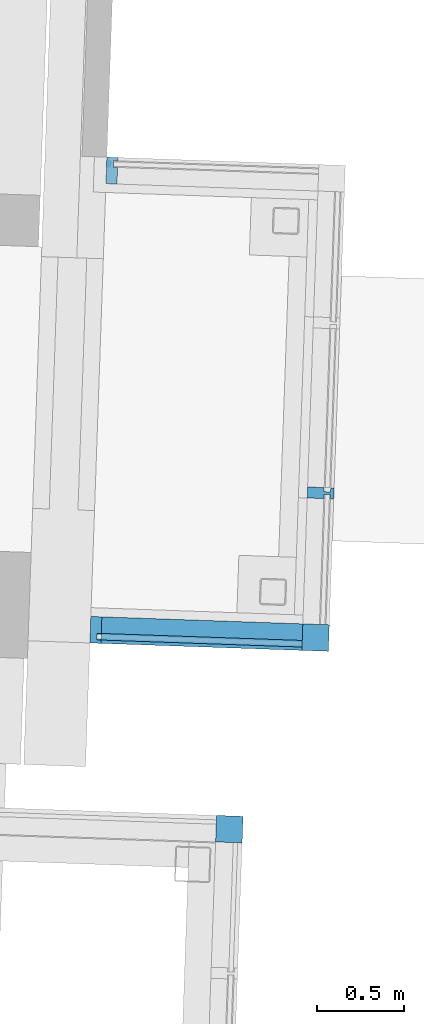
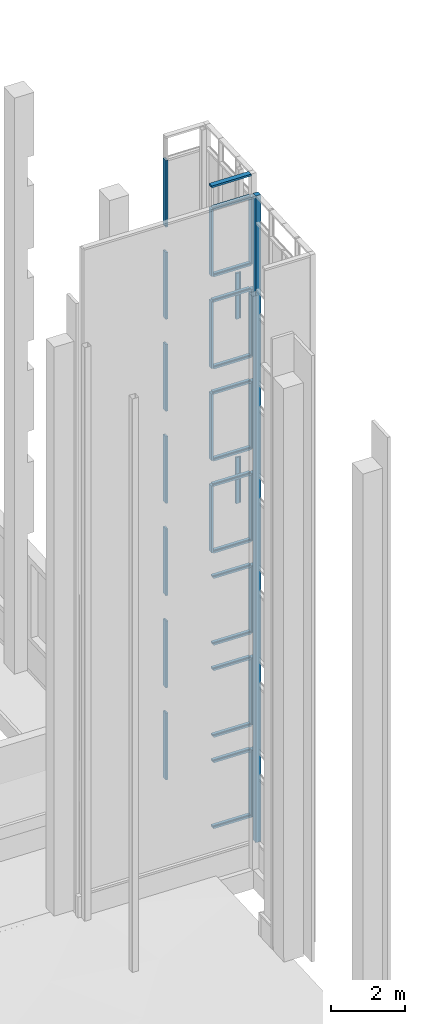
# One storey, part 10 of 44: 36 members, 4 elements without a shape of their own.
"""IFC2X3 building model written with IfcOpenShell, lengths in feet."""

from ifc_helpers import new_model, entity, si_unit, converted_unit, derived_unit, direction, frame, origin, origin_2d_with_axis, place, context, subcontext, project, spatial, polyline, rectangle, outline, extrude, material, type_object, element, aggregate, save


model = new_model("IFC2X3")

# Units and contexts
model_context = context("Model", 3, precision=0.0001, world=origin(), true_north=direction((0.999390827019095, 0.0348994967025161)))
body_context = subcontext(model_context, "Body", "Model", "MODEL_VIEW")
ifc_project = project(units=[converted_unit("LENGTHUNIT", "FOOT", entity("IfcRatioMeasure", 0.3048), si_unit("LENGTHUNIT", "METRE"), dimensions=[1, 0, 0, 0, 0, 0, 0]), converted_unit("AREAUNIT", "SQUARE FOOT", entity("IfcRatioMeasure", 0.09290304), si_unit("AREAUNIT", "SQUARE_METRE"), dimensions=[2, 0, 0, 0, 0, 0, 0]), converted_unit("VOLUMEUNIT", "CUBIC FOOT", entity("IfcRatioMeasure", 0.028316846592), si_unit("VOLUMEUNIT", "CUBIC_METRE"), dimensions=[3, 0, 0, 0, 0, 0, 0]), converted_unit("PLANEANGLEUNIT", "DEGREE", entity("IfcRatioMeasure", 0.0174532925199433), si_unit("PLANEANGLEUNIT", "RADIAN"), dimensions=[0, 0, 0, 0, 0, 0, 0]), si_unit("MASSUNIT", "GRAM", prefix="KILO"), si_unit("TIMEUNIT", "SECOND"), si_unit("FREQUENCYUNIT", "HERTZ"), si_unit("THERMODYNAMICTEMPERATUREUNIT", "DEGREE_CELSIUS"), derived_unit("THERMALTRANSMITTANCEUNIT", [(si_unit("MASSUNIT", "GRAM", prefix="KILO"), 1), (si_unit("THERMODYNAMICTEMPERATUREUNIT", "KELVIN"), -1), (si_unit("TIMEUNIT", "SECOND"), -3)]), derived_unit("VOLUMETRICFLOWRATEUNIT", [(si_unit("LENGTHUNIT", "METRE"), 3), (si_unit("TIMEUNIT", "SECOND"), -1)]), si_unit("ELECTRICCURRENTUNIT", "AMPERE"), si_unit("ELECTRICVOLTAGEUNIT", "VOLT"), si_unit("POWERUNIT", "WATT"), si_unit("FORCEUNIT", "NEWTON"), si_unit("ILLUMINANCEUNIT", "LUX"), si_unit("LUMINOUSFLUXUNIT", "LUMEN"), si_unit("LUMINOUSINTENSITYUNIT", "CANDELA"), derived_unit("USERDEFINED", [(si_unit("MASSUNIT", "GRAM", prefix="KILO"), -1), (si_unit("LENGTHUNIT", "METRE"), -2), (si_unit("TIMEUNIT", "SECOND"), 3), (si_unit("LUMINOUSFLUXUNIT", "LUMEN"), 1)]), derived_unit("LINEARVELOCITYUNIT", [(si_unit("LENGTHUNIT", "METRE"), 1), (si_unit("TIMEUNIT", "SECOND"), -1)]), si_unit("PRESSUREUNIT", "PASCAL"), derived_unit("USERDEFINED", [(si_unit("LENGTHUNIT", "METRE"), -2), (si_unit("MASSUNIT", "GRAM", prefix="KILO"), 1), (si_unit("TIMEUNIT", "SECOND"), -2)])], contexts=[model_context])

# Site, building, storey
site_placement = place(None, frame((892.518771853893, 322.38689265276, 0.00393700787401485), z_axis=(0.0, 0.0, 1.0), x_axis=(0.0348994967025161, 0.999390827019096, 0.0)))
site = spatial("IfcSite", under=ifc_project, at=site_placement, Name="Default", CompositionType="ELEMENT")
building_placement = place(site_placement, origin())
building = spatial("IfcBuilding", under=site, at=building_placement, CompositionType="ELEMENT")
storey_placement = place(building_placement, frame((0.0, 0.0, 544.75)))
storey = spatial("IfcBuildingStorey", under=building, at=storey_placement, Name="Exist Garage - Ground Level", CompositionType="ELEMENT", Elevation=544.75)

# Curtain wall, member
curtain_wall_type = type_object("IfcCurtainWallType", Name="Curtain Wall:(Existing) Curtainwall - Blank", PredefinedType="NOTDEFINED")
curtain_wall_1_placement = place(storey_placement, frame((0.0, 0.0, -544.75)))
curtain_wall_1 = element("IfcCurtainWall", 1, at=curtain_wall_1_placement, inside=storey, type_object=curtain_wall_type, Name="Curtain Wall:(Existing) Curtainwall - Blank", ObjectType="Curtain Wall:(Existing) Curtainwall - Blank")
ifc_material = material(Name="Metal - Aluminum")
member_1_placement = place(curtain_wall_1_placement, frame((0.0, 0.0, 544.75)))
member_1 = element("IfcMember", 2, at=member_1_placement, material=ifc_material, Name="Curtain Wall:(Existing) Curtainwall - Blank", ObjectType="Curtain Wall:(Existing) Curtainwall - Blank", context=body_context, shape_type="SweptSolid", body=[
    extrude(rectangle(XDim=0.5, YDim=0.5, at=origin_2d_with_axis()), frame((101.843963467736, 232.513953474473, 2.25), z_axis=(0.0, 0.0, 1.0), x_axis=(-1.0, 0.0, 0.0)), (0.0, 0.0, 1.0), 70.2083333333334),
])
aggregate(curtain_wall_1, [member_1])

# Curtain wall, members
curtain_wall_2_placement = place(storey_placement, frame((0.0, 0.0, -544.75)))
curtain_wall_2 = element("IfcCurtainWall", 3, at=curtain_wall_2_placement, inside=storey, type_object=curtain_wall_type, Name="Curtain Wall:(Existing) Curtainwall - Blank", ObjectType="Curtain Wall:(Existing) Curtainwall - Blank")
member_2_placement = place(curtain_wall_2_placement, frame((0.0, 0.0, 544.75)))
member_2 = element("IfcMember", 4, at=member_2_placement, material=ifc_material, Name="Curtain Wall:(Existing) Curtainwall - Blank", ObjectType="Curtain Wall:(Existing) Curtainwall - Blank", context=body_context, shape_type="SweptSolid", body=[
    extrude(rectangle(XDim=0.5, YDim=0.5, at=origin_2d_with_axis()), frame((105.510626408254, 231.013953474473, 2.25), z_axis=(0.0, 0.0, 1.0), x_axis=(-1.0, 0.0, 0.0)), (0.0, 0.0, 1.0), 7.25),
])
member_3_placement = place(curtain_wall_2_placement, frame((0.0, 0.0, 544.75)))
member_3 = element("IfcMember", 5, at=member_3_placement, material=ifc_material, Name="Curtain Wall:(Existing) Curtainwall - Blank", ObjectType="Curtain Wall:(Existing) Curtainwall - Blank", context=body_context, shape_type="SweptSolid", body=[
    extrude(outline(polyline([(-0.0716145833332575, -0.1875), (0.136718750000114, -0.1875), (0.136718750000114, 0.3125), (-0.0716145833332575, 0.3125), (-0.0716145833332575, 0.0), (0.00651041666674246, 0.0), (0.00651041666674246, -0.125), (-0.0716145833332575, -0.125), (-0.0716145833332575, -0.1875)])), frame((105.448126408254, 235.05562014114, 2.38671875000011), z_axis=(0.0, -1.0, 0.0), x_axis=(0.0, 0.0, -1.0)), (0.0, 0.0, 1.0), 3.79166666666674),
])
member_4_placement = place(curtain_wall_2_placement, frame((0.0, 0.0, 544.75)))
member_4 = element("IfcMember", 6, at=member_4_placement, material=ifc_material, Name="Curtain Wall:(Existing) Curtainwall - Blank", ObjectType="Curtain Wall:(Existing) Curtainwall - Blank", context=body_context, shape_type="SweptSolid", body=[
    extrude(outline(polyline([(-0.13671875, -0.3125), (0.0716145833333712, -0.3125), (0.0716145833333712, 0.0), (-0.00651041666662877, 0.0), (-0.00651041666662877, 0.125), (0.0716145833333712, 0.125), (0.0716145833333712, 0.1875), (-0.13671875, 0.1875), (-0.13671875, -0.3125)])), frame((105.448126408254, 231.263953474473, 71.9466145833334), z_axis=(0.0, 1.0, 0.0), x_axis=(0.0, 0.0, -1.0)), (0.0, 0.0, 1.0), 4.00000000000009),
])
member_5_placement = place(curtain_wall_2_placement, frame((0.0, 0.0, 544.75)))
member_5 = element("IfcMember", 7, at=member_5_placement, material=ifc_material, Name="Curtain Wall:(Existing) Curtainwall - Blank", ObjectType="Curtain Wall:(Existing) Curtainwall - Blank", context=body_context, shape_type="SweptSolid", body=[
    extrude(rectangle(XDim=0.5, YDim=0.5, at=origin_2d_with_axis()), frame((105.510626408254, 231.013953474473, 12.25), z_axis=(0.0, 0.0, 1.0), x_axis=(-1.0, 0.0, 0.0)), (0.0, 0.0, 1.0), 7.25),
])
member_6_placement = place(curtain_wall_2_placement, frame((0.0, 0.0, 544.75)))
member_6 = element("IfcMember", 8, at=member_6_placement, material=ifc_material, Name="Curtain Wall:(Existing) Curtainwall - Blank", ObjectType="Curtain Wall:(Existing) Curtainwall - Blank", context=body_context, shape_type="SweptSolid", body=[
    extrude(rectangle(XDim=0.5, YDim=0.5, at=origin_2d_with_axis()), frame((105.510626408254, 231.013953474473, 22.25), z_axis=(0.0, 0.0, 1.0), x_axis=(-1.0, 0.0, 0.0)), (0.0, 0.0, 1.0), 7.25),
])
member_7_placement = place(curtain_wall_2_placement, frame((0.0, 0.0, 544.75)))
member_7 = element("IfcMember", 9, at=member_7_placement, material=ifc_material, Name="Curtain Wall:(Existing) Curtainwall - Blank", ObjectType="Curtain Wall:(Existing) Curtainwall - Blank", context=body_context, shape_type="SweptSolid", body=[
    extrude(rectangle(XDim=0.5, YDim=0.5, at=origin_2d_with_axis()), frame((105.510626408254, 231.013953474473, 32.25), z_axis=(0.0, 0.0, 1.0), x_axis=(-1.0, 0.0, 0.0)), (0.0, 0.0, 1.0), 7.25),
])
member_8_placement = place(curtain_wall_2_placement, frame((0.0, 0.0, 544.75)))
member_8 = element("IfcMember", 10, at=member_8_placement, material=ifc_material, Name="Curtain Wall:(Existing) Curtainwall - Blank", ObjectType="Curtain Wall:(Existing) Curtainwall - Blank", context=body_context, shape_type="SweptSolid", body=[
    extrude(outline(polyline([(0.125, -0.0716145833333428), (0.1875, -0.0716145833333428), (0.1875, 0.13671875), (-0.3125, 0.13671875), (-0.3125, -0.0716145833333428), (0.0, -0.0716145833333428), (0.0, 0.00651041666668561), (0.125, 0.00651041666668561), (0.125, -0.0716145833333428)])), frame((105.448126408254, 235.127234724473, 39.5), z_axis=(0.0, 0.0, -1.0), x_axis=(-1.0, 0.0, 0.0)), (0.0, 0.0, 1.0), 7.25),
])
member_9_placement = place(curtain_wall_2_placement, frame((0.0, 0.0, 544.75)))
member_9 = element("IfcMember", 11, at=member_9_placement, material=ifc_material, Name="Curtain Wall:(Existing) Curtainwall - Blank", ObjectType="Curtain Wall:(Existing) Curtainwall - Blank", context=body_context, shape_type="SweptSolid", body=[
    extrude(rectangle(XDim=0.5, YDim=0.5, at=origin_2d_with_axis()), frame((105.510626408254, 231.013953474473, 42.25), z_axis=(0.0, 0.0, 1.0), x_axis=(-1.0, 0.0, 0.0)), (0.0, 0.0, 1.0), 7.25),
])
member_10_placement = place(curtain_wall_2_placement, frame((0.0, 0.0, 544.75)))
member_10 = element("IfcMember", 12, at=member_10_placement, material=ifc_material, Name="Curtain Wall:(Existing) Curtainwall - Blank", ObjectType="Curtain Wall:(Existing) Curtainwall - Blank", context=body_context, shape_type="SweptSolid", body=[
    extrude(outline(polyline([(0.125, -0.0716145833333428), (0.1875, -0.0716145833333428), (0.1875, 0.13671875), (-0.3125, 0.13671875), (-0.3125, -0.0716145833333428), (0.0, -0.0716145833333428), (0.0, 0.00651041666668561), (0.125, 0.00651041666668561), (0.125, -0.0716145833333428)])), frame((105.448126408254, 235.127234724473, 49.5), z_axis=(0.0, 0.0, -1.0), x_axis=(-1.0, 0.0, 0.0)), (0.0, 0.0, 1.0), 7.25),
])
member_11_placement = place(curtain_wall_2_placement, frame((0.0, 0.0, 544.75)))
member_11 = element("IfcMember", 13, at=member_11_placement, material=ifc_material, Name="Curtain Wall:(Existing) Curtainwall - Blank", ObjectType="Curtain Wall:(Existing) Curtainwall - Blank", context=body_context, shape_type="SweptSolid", body=[
    extrude(rectangle(XDim=0.5, YDim=0.5, at=origin_2d_with_axis()), frame((105.510626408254, 231.013953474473, 52.25), z_axis=(0.0, 0.0, 1.0), x_axis=(-1.0, 0.0, 0.0)), (0.0, 0.0, 1.0), 7.25),
])
member_12_placement = place(curtain_wall_2_placement, frame((0.0, 0.0, 544.75)))
member_12 = element("IfcMember", 14, at=member_12_placement, material=ifc_material, Name="Curtain Wall:(Existing) Curtainwall - Blank", ObjectType="Curtain Wall:(Existing) Curtainwall - Blank", context=body_context, shape_type="SweptSolid", body=[
    extrude(outline(polyline([(0.125, -0.0716145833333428), (0.1875, -0.0716145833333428), (0.1875, 0.13671875), (-0.3125, 0.13671875), (-0.3125, -0.0716145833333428), (0.0, -0.0716145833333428), (0.0, 0.00651041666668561), (0.125, 0.00651041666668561), (0.125, -0.0716145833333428)])), frame((105.448126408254, 235.127234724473, 59.5), z_axis=(0.0, 0.0, -1.0), x_axis=(-1.0, 0.0, 0.0)), (0.0, 0.0, 1.0), 7.25),
])
member_13_placement = place(curtain_wall_2_placement, frame((0.0, 0.0, 544.75)))
member_13 = element("IfcMember", 15, at=member_13_placement, material=ifc_material, Name="Curtain Wall:(Existing) Curtainwall - Blank", ObjectType="Curtain Wall:(Existing) Curtainwall - Blank", context=body_context, shape_type="SweptSolid", body=[
    extrude(rectangle(XDim=0.5, YDim=0.5, at=origin_2d_with_axis()), frame((105.510626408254, 231.013953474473, 62.25), z_axis=(0.0, 0.0, 1.0), x_axis=(-1.0, 0.0, 0.0)), (0.0, 0.0, 1.0), 7.25),
])
member_14_placement = place(curtain_wall_2_placement, frame((0.0, 0.0, 544.75)))
member_14 = element("IfcMember", 16, at=member_14_placement, material=ifc_material, Name="Curtain Wall:(Existing) Curtainwall - Blank", ObjectType="Curtain Wall:(Existing) Curtainwall - Blank", context=body_context, shape_type="SweptSolid", body=[
    extrude(outline(polyline([(0.125, -0.0716145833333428), (0.1875, -0.0716145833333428), (0.1875, 0.13671875), (-0.3125, 0.13671875), (-0.3125, -0.0716145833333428), (0.0, -0.0716145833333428), (0.0, 0.00651041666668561), (0.125, 0.00651041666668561), (0.125, -0.0716145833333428)])), frame((105.448126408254, 235.127234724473, 69.5), z_axis=(0.0, 0.0, -1.0), x_axis=(-1.0, 0.0, 0.0)), (0.0, 0.0, 1.0), 7.25),
])
member_15_placement = place(curtain_wall_2_placement, frame((0.0, 0.0, 544.75)))
member_15 = element("IfcMember", 17, at=member_15_placement, material=ifc_material, Name="Curtain Wall:(Existing) Curtainwall - Blank", ObjectType="Curtain Wall:(Existing) Curtainwall - Blank", context=body_context, shape_type="SweptSolid", body=[
    extrude(outline(polyline([(-0.104166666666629, -0.333333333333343), (0.104166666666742, -0.333333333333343), (0.104166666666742, -0.0208333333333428), (0.0260416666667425, -0.0208333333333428), (0.0260416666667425, 0.104166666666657), (0.104166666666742, 0.104166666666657), (0.104166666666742, 0.166666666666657), (-0.104166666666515, 0.166666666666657), (-0.104166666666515, 0.104166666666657), (-0.0260416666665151, 0.104166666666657), (-0.0260416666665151, -0.0208333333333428), (-0.104166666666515, -0.0208333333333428), (-0.104166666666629, -0.333333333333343)])), frame((105.427293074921, 231.263953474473, 69.5000000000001), z_axis=(0.0, 1.0, 0.0), x_axis=(0.0, 0.0, -1.0)), (0.0, 0.0, 1.0), 3.79166666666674),
])
member_16_placement = place(curtain_wall_2_placement, frame((0.0, 0.0, 544.75)))
member_16 = element("IfcMember", 18, at=member_16_placement, material=ifc_material, Name="Curtain Wall:(Existing) Curtainwall - Blank", ObjectType="Curtain Wall:(Existing) Curtainwall - Blank", context=body_context, shape_type="SweptSolid", body=[
    extrude(outline(polyline([(-0.104166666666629, -0.333333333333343), (0.104166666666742, -0.333333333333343), (0.104166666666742, -0.0208333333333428), (0.0260416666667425, -0.0208333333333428), (0.0260416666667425, 0.104166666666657), (0.104166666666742, 0.104166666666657), (0.104166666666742, 0.166666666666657), (-0.104166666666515, 0.166666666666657), (-0.104166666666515, 0.104166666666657), (-0.0260416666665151, 0.104166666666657), (-0.0260416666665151, -0.0208333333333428), (-0.104166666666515, -0.0208333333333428), (-0.104166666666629, -0.333333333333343)])), frame((105.427293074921, 231.263953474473, 62.2500000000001), z_axis=(0.0, 1.0, 0.0), x_axis=(0.0, 0.0, -1.0)), (0.0, 0.0, 1.0), 3.79166666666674),
])
member_17_placement = place(curtain_wall_2_placement, frame((0.0, 0.0, 544.75)))
member_17 = element("IfcMember", 19, at=member_17_placement, material=ifc_material, Name="Curtain Wall:(Existing) Curtainwall - Blank", ObjectType="Curtain Wall:(Existing) Curtainwall - Blank", context=body_context, shape_type="SweptSolid", body=[
    extrude(outline(polyline([(-0.104166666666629, -0.333333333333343), (0.104166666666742, -0.333333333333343), (0.104166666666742, -0.0208333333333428), (0.0260416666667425, -0.0208333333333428), (0.0260416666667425, 0.104166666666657), (0.104166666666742, 0.104166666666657), (0.104166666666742, 0.166666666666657), (-0.104166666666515, 0.166666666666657), (-0.104166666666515, 0.104166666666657), (-0.0260416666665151, 0.104166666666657), (-0.0260416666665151, -0.0208333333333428), (-0.104166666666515, -0.0208333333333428), (-0.104166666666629, -0.333333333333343)])), frame((105.427293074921, 231.263953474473, 59.5000000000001), z_axis=(0.0, 1.0, 0.0), x_axis=(0.0, 0.0, -1.0)), (0.0, 0.0, 1.0), 3.79166666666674),
])
member_18_placement = place(curtain_wall_2_placement, frame((0.0, 0.0, 544.75)))
member_18 = element("IfcMember", 20, at=member_18_placement, material=ifc_material, Name="Curtain Wall:(Existing) Curtainwall - Blank", ObjectType="Curtain Wall:(Existing) Curtainwall - Blank", context=body_context, shape_type="SweptSolid", body=[
    extrude(outline(polyline([(-0.104166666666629, -0.333333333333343), (0.104166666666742, -0.333333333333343), (0.104166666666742, -0.0208333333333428), (0.0260416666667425, -0.0208333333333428), (0.0260416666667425, 0.104166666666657), (0.104166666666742, 0.104166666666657), (0.104166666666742, 0.166666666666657), (-0.104166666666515, 0.166666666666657), (-0.104166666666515, 0.104166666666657), (-0.0260416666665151, 0.104166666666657), (-0.0260416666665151, -0.0208333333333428), (-0.104166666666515, -0.0208333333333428), (-0.104166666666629, -0.333333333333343)])), frame((105.427293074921, 231.263953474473, 52.2500000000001), z_axis=(0.0, 1.0, 0.0), x_axis=(0.0, 0.0, -1.0)), (0.0, 0.0, 1.0), 3.79166666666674),
])
member_19_placement = place(curtain_wall_2_placement, frame((0.0, 0.0, 544.75)))
member_19 = element("IfcMember", 21, at=member_19_placement, material=ifc_material, Name="Curtain Wall:(Existing) Curtainwall - Blank", ObjectType="Curtain Wall:(Existing) Curtainwall - Blank", context=body_context, shape_type="SweptSolid", body=[
    extrude(outline(polyline([(-0.104166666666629, -0.333333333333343), (0.104166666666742, -0.333333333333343), (0.104166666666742, -0.0208333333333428), (0.0260416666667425, -0.0208333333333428), (0.0260416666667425, 0.104166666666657), (0.104166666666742, 0.104166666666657), (0.104166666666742, 0.166666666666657), (-0.104166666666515, 0.166666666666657), (-0.104166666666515, 0.104166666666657), (-0.0260416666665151, 0.104166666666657), (-0.0260416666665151, -0.0208333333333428), (-0.104166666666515, -0.0208333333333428), (-0.104166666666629, -0.333333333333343)])), frame((105.427293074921, 231.263953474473, 49.5000000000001), z_axis=(0.0, 1.0, 0.0), x_axis=(0.0, 0.0, -1.0)), (0.0, 0.0, 1.0), 3.79166666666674),
])
member_20_placement = place(curtain_wall_2_placement, frame((0.0, 0.0, 544.75)))
member_20 = element("IfcMember", 22, at=member_20_placement, material=ifc_material, Name="Curtain Wall:(Existing) Curtainwall - Blank", ObjectType="Curtain Wall:(Existing) Curtainwall - Blank", context=body_context, shape_type="SweptSolid", body=[
    extrude(outline(polyline([(-0.104166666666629, -0.333333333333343), (0.104166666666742, -0.333333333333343), (0.104166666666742, -0.0208333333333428), (0.0260416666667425, -0.0208333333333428), (0.0260416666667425, 0.104166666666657), (0.104166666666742, 0.104166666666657), (0.104166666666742, 0.166666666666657), (-0.104166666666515, 0.166666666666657), (-0.104166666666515, 0.104166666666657), (-0.0260416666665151, 0.104166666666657), (-0.0260416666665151, -0.0208333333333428), (-0.104166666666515, -0.0208333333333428), (-0.104166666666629, -0.333333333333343)])), frame((105.427293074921, 231.263953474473, 42.2500000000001), z_axis=(0.0, 1.0, 0.0), x_axis=(0.0, 0.0, -1.0)), (0.0, 0.0, 1.0), 3.79166666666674),
])
member_21_placement = place(curtain_wall_2_placement, frame((0.0, 0.0, 544.75)))
member_21 = element("IfcMember", 23, at=member_21_placement, material=ifc_material, Name="Curtain Wall:(Existing) Curtainwall - Blank", ObjectType="Curtain Wall:(Existing) Curtainwall - Blank", context=body_context, shape_type="SweptSolid", body=[
    extrude(outline(polyline([(-0.104166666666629, -0.333333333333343), (0.104166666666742, -0.333333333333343), (0.104166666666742, -0.0208333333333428), (0.0260416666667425, -0.0208333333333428), (0.0260416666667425, 0.104166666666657), (0.104166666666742, 0.104166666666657), (0.104166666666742, 0.166666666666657), (-0.104166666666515, 0.166666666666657), (-0.104166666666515, 0.104166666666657), (-0.0260416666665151, 0.104166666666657), (-0.0260416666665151, -0.0208333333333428), (-0.104166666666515, -0.0208333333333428), (-0.104166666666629, -0.333333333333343)])), frame((105.427293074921, 231.263953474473, 39.5000000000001), z_axis=(0.0, 1.0, 0.0), x_axis=(0.0, 0.0, -1.0)), (0.0, 0.0, 1.0), 3.79166666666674),
])
member_22_placement = place(curtain_wall_2_placement, frame((0.0, 0.0, 544.75)))
member_22 = element("IfcMember", 24, at=member_22_placement, material=ifc_material, Name="Curtain Wall:(Existing) Curtainwall - Blank", ObjectType="Curtain Wall:(Existing) Curtainwall - Blank", context=body_context, shape_type="SweptSolid", body=[
    extrude(outline(polyline([(-0.104166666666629, -0.333333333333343), (0.104166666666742, -0.333333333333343), (0.104166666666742, -0.0208333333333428), (0.0260416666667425, -0.0208333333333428), (0.0260416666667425, 0.104166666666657), (0.104166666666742, 0.104166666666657), (0.104166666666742, 0.166666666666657), (-0.104166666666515, 0.166666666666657), (-0.104166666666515, 0.104166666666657), (-0.0260416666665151, 0.104166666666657), (-0.0260416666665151, -0.0208333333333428), (-0.104166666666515, -0.0208333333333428), (-0.104166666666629, -0.333333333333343)])), frame((105.427293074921, 231.263953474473, 32.2500000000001), z_axis=(0.0, 1.0, 0.0), x_axis=(0.0, 0.0, -1.0)), (0.0, 0.0, 1.0), 3.79166666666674),
])
member_23_placement = place(curtain_wall_2_placement, frame((0.0, 0.0, 544.75)))
member_23 = element("IfcMember", 25, at=member_23_placement, material=ifc_material, Name="Curtain Wall:(Existing) Curtainwall - Blank", ObjectType="Curtain Wall:(Existing) Curtainwall - Blank", context=body_context, shape_type="SweptSolid", body=[
    extrude(outline(polyline([(-0.104166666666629, -0.333333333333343), (0.104166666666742, -0.333333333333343), (0.104166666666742, -0.0208333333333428), (0.0260416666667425, -0.0208333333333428), (0.0260416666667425, 0.104166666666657), (0.104166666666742, 0.104166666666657), (0.104166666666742, 0.166666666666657), (-0.104166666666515, 0.166666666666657), (-0.104166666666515, 0.104166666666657), (-0.0260416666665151, 0.104166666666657), (-0.0260416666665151, -0.0208333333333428), (-0.104166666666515, -0.0208333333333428), (-0.104166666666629, -0.333333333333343)])), frame((105.427293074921, 231.263953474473, 29.5000000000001), z_axis=(0.0, 1.0, 0.0), x_axis=(0.0, 0.0, -1.0)), (0.0, 0.0, 1.0), 3.79166666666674),
])
member_24_placement = place(curtain_wall_2_placement, frame((0.0, 0.0, 544.75)))
member_24 = element("IfcMember", 26, at=member_24_placement, material=ifc_material, Name="Curtain Wall:(Existing) Curtainwall - Blank", ObjectType="Curtain Wall:(Existing) Curtainwall - Blank", context=body_context, shape_type="SweptSolid", body=[
    extrude(outline(polyline([(-0.104166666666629, -0.333333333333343), (0.104166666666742, -0.333333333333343), (0.104166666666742, -0.0208333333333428), (0.0260416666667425, -0.0208333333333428), (0.0260416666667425, 0.104166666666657), (0.104166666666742, 0.104166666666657), (0.104166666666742, 0.166666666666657), (-0.104166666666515, 0.166666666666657), (-0.104166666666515, 0.104166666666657), (-0.0260416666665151, 0.104166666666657), (-0.0260416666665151, -0.0208333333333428), (-0.104166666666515, -0.0208333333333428), (-0.104166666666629, -0.333333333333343)])), frame((105.427293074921, 231.263953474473, 22.2500000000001), z_axis=(0.0, 1.0, 0.0), x_axis=(0.0, 0.0, -1.0)), (0.0, 0.0, 1.0), 3.79166666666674),
])
member_25_placement = place(curtain_wall_2_placement, frame((0.0, 0.0, 544.75)))
member_25 = element("IfcMember", 27, at=member_25_placement, material=ifc_material, Name="Curtain Wall:(Existing) Curtainwall - Blank", ObjectType="Curtain Wall:(Existing) Curtainwall - Blank", context=body_context, shape_type="SweptSolid", body=[
    extrude(outline(polyline([(-0.104166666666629, -0.333333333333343), (0.104166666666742, -0.333333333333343), (0.104166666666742, -0.0208333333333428), (0.0260416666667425, -0.0208333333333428), (0.0260416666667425, 0.104166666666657), (0.104166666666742, 0.104166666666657), (0.104166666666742, 0.166666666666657), (-0.104166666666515, 0.166666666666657), (-0.104166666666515, 0.104166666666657), (-0.0260416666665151, 0.104166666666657), (-0.0260416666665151, -0.0208333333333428), (-0.104166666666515, -0.0208333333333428), (-0.104166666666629, -0.333333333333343)])), frame((105.427293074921, 231.263953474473, 19.5000000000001), z_axis=(0.0, 1.0, 0.0), x_axis=(0.0, 0.0, -1.0)), (0.0, 0.0, 1.0), 3.79166666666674),
])
member_26_placement = place(curtain_wall_2_placement, frame((0.0, 0.0, 544.75)))
member_26 = element("IfcMember", 28, at=member_26_placement, material=ifc_material, Name="Curtain Wall:(Existing) Curtainwall - Blank", ObjectType="Curtain Wall:(Existing) Curtainwall - Blank", context=body_context, shape_type="SweptSolid", body=[
    extrude(outline(polyline([(-0.104166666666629, -0.333333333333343), (0.104166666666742, -0.333333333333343), (0.104166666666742, -0.0208333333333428), (0.0260416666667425, -0.0208333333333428), (0.0260416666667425, 0.104166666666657), (0.104166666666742, 0.104166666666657), (0.104166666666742, 0.166666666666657), (-0.104166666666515, 0.166666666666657), (-0.104166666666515, 0.104166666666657), (-0.0260416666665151, 0.104166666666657), (-0.0260416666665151, -0.0208333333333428), (-0.104166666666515, -0.0208333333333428), (-0.104166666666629, -0.333333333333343)])), frame((105.427293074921, 231.263953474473, 12.2500000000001), z_axis=(0.0, 1.0, 0.0), x_axis=(0.0, 0.0, -1.0)), (0.0, 0.0, 1.0), 3.79166666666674),
])
member_27_placement = place(curtain_wall_2_placement, frame((0.0, 0.0, 544.75)))
member_27 = element("IfcMember", 29, at=member_27_placement, material=ifc_material, Name="Curtain Wall:(Existing) Curtainwall - Blank", ObjectType="Curtain Wall:(Existing) Curtainwall - Blank", context=body_context, shape_type="SweptSolid", body=[
    extrude(outline(polyline([(-0.104166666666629, -0.333333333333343), (0.104166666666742, -0.333333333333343), (0.104166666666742, -0.0208333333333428), (0.0260416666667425, -0.0208333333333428), (0.0260416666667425, 0.104166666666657), (0.104166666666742, 0.104166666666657), (0.104166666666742, 0.166666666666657), (-0.104166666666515, 0.166666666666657), (-0.104166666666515, 0.104166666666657), (-0.0260416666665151, 0.104166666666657), (-0.0260416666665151, -0.0208333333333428), (-0.104166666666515, -0.0208333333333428), (-0.104166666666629, -0.333333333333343)])), frame((105.427293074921, 231.263953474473, 9.50000000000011), z_axis=(0.0, 1.0, 0.0), x_axis=(0.0, 0.0, -1.0)), (0.0, 0.0, 1.0), 3.79166666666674),
])
aggregate(curtain_wall_2, [member_2, member_3, member_4, member_5, member_6, member_7, member_8, member_9, member_10, member_11, member_12, member_13, member_14, member_15, member_16, member_17, member_18, member_19, member_20, member_21, member_22, member_23, member_24, member_25, member_26, member_27])

curtain_wall_3_placement = place(storey_placement, frame((0.0, 0.0, -544.75)))
curtain_wall_3 = element("IfcCurtainWall", 30, at=curtain_wall_3_placement, inside=storey, type_object=curtain_wall_type, Name="Curtain Wall:(Existing) Curtainwall - Blank", ObjectType="Curtain Wall:(Existing) Curtainwall - Blank")
member_28_placement = place(curtain_wall_3_placement, frame((0.0, 0.0, 544.75)))
member_28 = element("IfcMember", 31, at=member_28_placement, material=ifc_material, Name="Curtain Wall:(Existing) Curtainwall - Blank", ObjectType="Curtain Wall:(Existing) Curtainwall - Blank", context=body_context, shape_type="SweptSolid", body=[
    extrude(outline(polyline([(-0.104166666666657, -0.333333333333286), (0.104166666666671, -0.333333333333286), (0.104166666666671, -0.020833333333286), (0.0260416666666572, -0.020833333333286), (0.0260416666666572, 0.104166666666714), (0.104166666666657, 0.104166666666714), (0.104166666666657, 0.166666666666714), (-0.104166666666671, 0.166666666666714), (-0.104166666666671, 0.104166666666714), (-0.0260416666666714, 0.104166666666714), (-0.0260416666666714, -0.020833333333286), (-0.104166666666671, -0.020833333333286), (-0.104166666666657, -0.333333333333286)])), frame((108.239794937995, 230.93062014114, 34.5), z_axis=(0.0, 0.0, 1.0), x_axis=(-1.0, 0.0, 0.0)), (0.0, 0.0, 1.0), 5.0),
])
member_29_placement = place(curtain_wall_3_placement, frame((0.0, 0.0, 544.75)))
member_29 = element("IfcMember", 32, at=member_29_placement, material=ifc_material, Name="Curtain Wall:(Existing) Curtainwall - Blank", ObjectType="Curtain Wall:(Existing) Curtainwall - Blank", context=body_context, shape_type="SweptSolid", body=[
    extrude(outline(polyline([(-0.104166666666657, -0.333333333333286), (0.104166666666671, -0.333333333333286), (0.104166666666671, -0.020833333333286), (0.0260416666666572, -0.020833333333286), (0.0260416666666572, 0.104166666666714), (0.104166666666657, 0.104166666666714), (0.104166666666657, 0.166666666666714), (-0.104166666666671, 0.166666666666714), (-0.104166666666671, 0.104166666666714), (-0.0260416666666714, 0.104166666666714), (-0.0260416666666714, -0.020833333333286), (-0.104166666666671, -0.020833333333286), (-0.104166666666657, -0.333333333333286)])), frame((108.239794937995, 230.93062014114, 54.5), z_axis=(0.0, 0.0, 1.0), x_axis=(-1.0, 0.0, 0.0)), (0.0, 0.0, 1.0), 5.0),
])
aggregate(curtain_wall_3, [member_28, member_29])

curtain_wall_4_placement = place(storey_placement, frame((0.0, 0.0, -544.75)))
curtain_wall_4 = element("IfcCurtainWall", 33, at=curtain_wall_4_placement, inside=storey, type_object=curtain_wall_type, Name="Curtain Wall:(Existing) Curtainwall - Blank", ObjectType="Curtain Wall:(Existing) Curtainwall - Blank")
member_30_placement = place(curtain_wall_4_placement, frame((0.0, 0.0, 544.75)))
member_30 = element("IfcMember", 34, at=member_30_placement, material=ifc_material, Name="Curtain Wall:(Existing) Curtainwall - Blank", ObjectType="Curtain Wall:(Existing) Curtainwall - Blank", context=body_context, shape_type="SweptSolid", body=[
    extrude(outline(polyline([(-0.1875, -0.13671875), (0.3125, -0.13671875), (0.3125, 0.0716145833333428), (0.0, 0.0716145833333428), (0.0, -0.00651041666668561), (-0.125, -0.00651041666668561), (-0.125, 0.0716145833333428), (-0.1875, 0.0716145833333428), (-0.1875, -0.13671875)])), frame((114.239796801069, 235.127234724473, 2.25), z_axis=(0.0, 0.0, 1.0), x_axis=(-1.0, 0.0, 0.0)), (0.0, 0.0, 1.0), 7.25),
])
member_31_placement = place(curtain_wall_4_placement, frame((0.0, 0.0, 544.75)))
member_31 = element("IfcMember", 35, at=member_31_placement, material=ifc_material, Name="Curtain Wall:(Existing) Curtainwall - Blank", ObjectType="Curtain Wall:(Existing) Curtainwall - Blank", context=body_context, shape_type="SweptSolid", body=[
    extrude(outline(polyline([(-0.1875, -0.13671875), (0.3125, -0.13671875), (0.3125, 0.0716145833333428), (0.0, 0.0716145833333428), (0.0, -0.00651041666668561), (-0.125, -0.00651041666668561), (-0.125, 0.0716145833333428), (-0.1875, 0.0716145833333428), (-0.1875, -0.13671875)])), frame((114.239796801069, 235.127234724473, 12.25), z_axis=(0.0, 0.0, 1.0), x_axis=(-1.0, 0.0, 0.0)), (0.0, 0.0, 1.0), 7.25),
])
member_32_placement = place(curtain_wall_4_placement, frame((0.0, 0.0, 544.75)))
member_32 = element("IfcMember", 36, at=member_32_placement, material=ifc_material, Name="Curtain Wall:(Existing) Curtainwall - Blank", ObjectType="Curtain Wall:(Existing) Curtainwall - Blank", context=body_context, shape_type="SweptSolid", body=[
    extrude(outline(polyline([(-0.1875, -0.13671875), (0.3125, -0.13671875), (0.3125, 0.0716145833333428), (0.0, 0.0716145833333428), (0.0, -0.00651041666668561), (-0.125, -0.00651041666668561), (-0.125, 0.0716145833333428), (-0.1875, 0.0716145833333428), (-0.1875, -0.13671875)])), frame((114.239796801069, 235.127234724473, 22.25), z_axis=(0.0, 0.0, 1.0), x_axis=(-1.0, 0.0, 0.0)), (0.0, 0.0, 1.0), 7.25),
])
member_33_placement = place(curtain_wall_4_placement, frame((0.0, 0.0, 544.75)))
member_33 = element("IfcMember", 37, at=member_33_placement, material=ifc_material, Name="Curtain Wall:(Existing) Curtainwall - Blank", ObjectType="Curtain Wall:(Existing) Curtainwall - Blank", context=body_context, shape_type="SweptSolid", body=[
    extrude(outline(polyline([(-0.1875, -0.13671875), (0.3125, -0.13671875), (0.3125, 0.0716145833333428), (0.0, 0.0716145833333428), (0.0, -0.00651041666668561), (-0.125, -0.00651041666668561), (-0.125, 0.0716145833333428), (-0.1875, 0.0716145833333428), (-0.1875, -0.13671875)])), frame((114.239796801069, 235.127234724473, 32.25), z_axis=(0.0, 0.0, 1.0), x_axis=(-1.0, 0.0, 0.0)), (0.0, 0.0, 1.0), 7.25),
])
member_34_placement = place(curtain_wall_4_placement, frame((0.0, 0.0, 544.75)))
member_34 = element("IfcMember", 38, at=member_34_placement, material=ifc_material, Name="Curtain Wall:(Existing) Curtainwall - Blank", ObjectType="Curtain Wall:(Existing) Curtainwall - Blank", context=body_context, shape_type="SweptSolid", body=[
    extrude(outline(polyline([(-0.1875, -0.13671875), (0.3125, -0.13671875), (0.3125, 0.0716145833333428), (0.0, 0.0716145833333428), (0.0, -0.00651041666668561), (-0.125, -0.00651041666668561), (-0.125, 0.0716145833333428), (-0.1875, 0.0716145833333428), (-0.1875, -0.13671875)])), frame((114.239796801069, 235.127234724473, 42.25), z_axis=(0.0, 0.0, 1.0), x_axis=(-1.0, 0.0, 0.0)), (0.0, 0.0, 1.0), 7.25),
])
member_35_placement = place(curtain_wall_4_placement, frame((0.0, 0.0, 544.75)))
member_35 = element("IfcMember", 39, at=member_35_placement, material=ifc_material, Name="Curtain Wall:(Existing) Curtainwall - Blank", ObjectType="Curtain Wall:(Existing) Curtainwall - Blank", context=body_context, shape_type="SweptSolid", body=[
    extrude(outline(polyline([(-0.1875, -0.13671875), (0.3125, -0.13671875), (0.3125, 0.0716145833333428), (0.0, 0.0716145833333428), (0.0, -0.00651041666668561), (-0.125, -0.00651041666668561), (-0.125, 0.0716145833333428), (-0.1875, 0.0716145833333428), (-0.1875, -0.13671875)])), frame((114.239796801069, 235.127234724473, 52.25), z_axis=(0.0, 0.0, 1.0), x_axis=(-1.0, 0.0, 0.0)), (0.0, 0.0, 1.0), 7.25),
])
member_36_placement = place(curtain_wall_4_placement, frame((0.0, 0.0, 544.75)))
member_36 = element("IfcMember", 40, at=member_36_placement, material=ifc_material, Name="Curtain Wall:(Existing) Curtainwall - Blank", ObjectType="Curtain Wall:(Existing) Curtainwall - Blank", context=body_context, shape_type="SweptSolid", body=[
    extrude(outline(polyline([(-0.1875, -0.13671875), (0.3125, -0.13671875), (0.3125, 0.0716145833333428), (0.0, 0.0716145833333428), (0.0, -0.00651041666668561), (-0.125, -0.00651041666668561), (-0.125, 0.0716145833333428), (-0.1875, 0.0716145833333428), (-0.1875, -0.13671875)])), frame((114.239796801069, 235.127234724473, 62.25), z_axis=(0.0, 0.0, 1.0), x_axis=(-1.0, 0.0, 0.0)), (0.0, 0.0, 1.0), 7.25),
])
aggregate(curtain_wall_4, [member_30, member_31, member_32, member_33, member_34, member_35, member_36])

save(model, "model.ifc")
